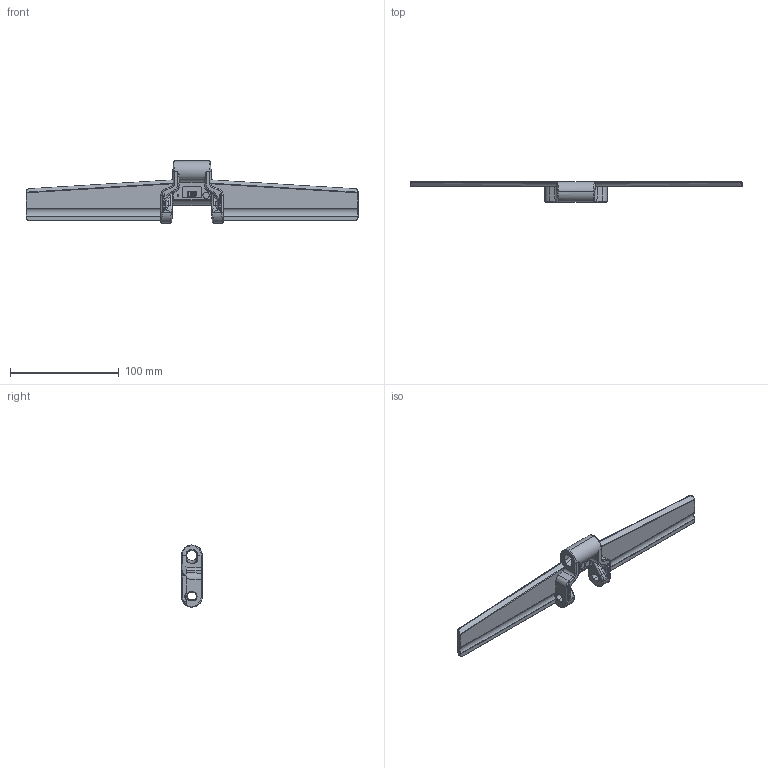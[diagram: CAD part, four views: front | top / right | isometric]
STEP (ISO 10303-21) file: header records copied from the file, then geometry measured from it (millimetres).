
FILE_DESCRIPTION (( 'STEP AP214' ), '1' );
FILE_NAME ('LF882M120.2.STEP', '2025-11-18T07:22:36', ( '' ), ( '' ), 'SwSTEP 2.0', 'SolidWorks 2022', '' );
FILE_SCHEMA (( 'AUTOMOTIVE_DESIGN' ));
Length unit declared in the file: millimetre
Products named in the file (1): LF882M120.2
Bounding box: 304.8 x 19.2 x 56.99 mm (x, y, z)
Volume: 56978.5 mm3; surface area: 27636.4 mm2
Topology: 1 solids, 1 shells, 498 faces, 1295 edges, 798 vertices
Faces by surface type: plane 238, bspline 139, cylinder 105, sphere 8, torus 6, cone 2
Entity records: 21659 total; most frequent: CARTESIAN_POINT 10774, ORIENTED_EDGE 2546, DIRECTION 1802, EDGE_CURVE 1273, VERTEX_POINT 798, LINE 772, VECTOR 772, EDGE_LOOP 525
